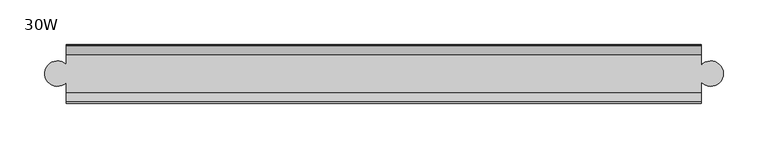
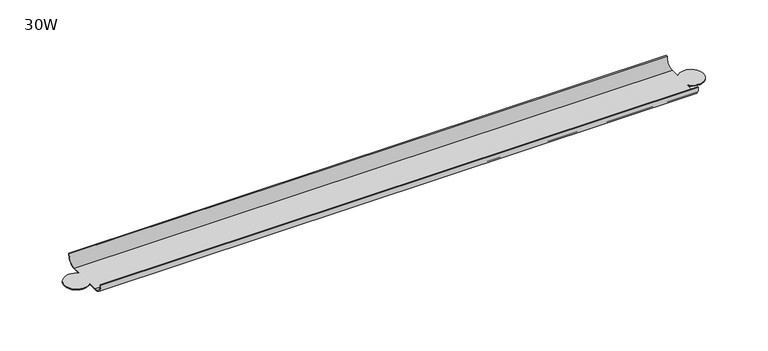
"""IFC4 building model written with IfcOpenShell, lengths in millimetres: furniture geometry, Steelcase - Groupwork - Marker Tray : 30W."""

from ifc_helpers import new_model, si_unit, frame, origin, place, context, project, spatial, polyline, circle_curve, source, transform, mapped, element, save
from ifc_brep_helpers import plane_surface, cylinder_surface, revolved_surface, advanced_brep


def furniture_30w_d64dd9da(model_context):
    return source(origin(), model_context, "Body", "AdvancedBrep", [
        advanced_brep(
        [(734.4429397, 212.2245693, 1687.0172), (23.241, 212.2245693, 1687.0172), (23.241, 202.0295313, 1698.4980698), (734.4429397, 202.0295313, 1698.4980698), (23.241, 200.7958824, 1698.4980698), (734.4429397, 200.7958824, 1698.4980698), (23.241, 212.2245693, 1685.798), (734.4429397, 212.2245693, 1685.798), (23.241, 223.9010128, 1685.798), (23.241, 244.1629734, 1685.798), (23.241, 255.3029693, 1685.798), (734.4429397, 255.3029693, 1685.798), (734.4429397, 243.3482016, 1685.798), (734.4429397, 224.7157845, 1685.798), (23.241, 266.7329688, 1698.4980698), (734.4429397, 266.7329688, 1698.4980698), (23.241, 265.5137686, 1698.4980698), (734.4429397, 265.5137686, 1698.4980698), (23.241, 255.3029693, 1687.0172), (734.4429397, 255.3029693, 1687.0172), (734.4429397, 224.7157845, 1687.0172), (734.4429397, 243.3482016, 1687.0172), (23.241, 244.1629734, 1687.0172), (23.241, 223.9010128, 1687.0172)],
        [
            (0, 1),
            (1, 2, circle_curve(frame((23.241, 212.2245693, 1697.2842432), z_axis=(-1.0, 0.0, 0.0), x_axis=(0.0, -1.0, 0.0)), 10.2670432)),
            (2, 3),
            (3, 0, circle_curve(frame((734.4429397, 212.2245693, 1697.2842432), z_axis=(1.0, 0.0, 0.0), x_axis=(0.0, -1.0, 0.0)), 10.2670432)),
            (2, 4),
            (4, 5),
            (5, 3),
            (4, 6, circle_curve(frame((23.241, 212.2245693, 1697.2903249), z_axis=(1.0, 0.0, 0.0), x_axis=(0.0, -1.0, 0.0)), 11.4923249)),
            (6, 7),
            (7, 5, circle_curve(frame((734.4429397, 212.2245693, 1697.2903249), z_axis=(-1.0, 0.0, 0.0), x_axis=(0.0, -1.0, 0.0)), 11.4923249)),
            (6, 8),
            (8, 9, circle_curve(frame((13.2330891, 234.0319931, 1685.798), z_axis=(0.0, 0.0, -1.0), x_axis=(1.0, 0.0, 0.0)), 14.2406124)),
            (9, 10),
            (10, 11),
            (11, 12),
            (12, 13, circle_curve(frame((745.2134226, 234.0319931, 1685.798), z_axis=(0.0, 0.0, -1.0), x_axis=(1.0, 0.0, 0.0)), 14.2406124)),
            (13, 7),
            (10, 14, circle_curve(frame((23.241, 255.3029693, 1697.2915061), z_axis=(1.0, 0.0, 0.0), x_axis=(0.0, -1.0, 0.0)), 11.4935061)),
            (14, 15),
            (15, 11, circle_curve(frame((734.4429397, 255.3029693, 1697.2915061), z_axis=(-1.0, 0.0, 0.0), x_axis=(0.0, -1.0, 0.0)), 11.4935061)),
            (14, 16),
            (16, 17),
            (17, 15),
            (16, 18, circle_curve(frame((23.241, 255.3029693, 1697.29825), z_axis=(-1.0, 0.0, 0.0), x_axis=(0.0, -1.0, 0.0)), 10.28105)),
            (18, 19),
            (19, 17, circle_curve(frame((734.4429397, 255.3029693, 1697.29825), z_axis=(1.0, 0.0, 0.0), x_axis=(0.0, -1.0, 0.0)), 10.28105)),
            (0, 20),
            (20, 21, circle_curve(frame((745.2134226, 234.0319931, 1687.0172), z_axis=(0.0, 0.0, 1.0), x_axis=(1.0, 0.0, 0.0)), 14.2406124)),
            (21, 19),
            (18, 22),
            (22, 23, circle_curve(frame((13.2330891, 234.0319931, 1687.0172), z_axis=(0.0, 0.0, 1.0), x_axis=(1.0, 0.0, 0.0)), 14.2406124)),
            (23, 1),
            (23, 8),
            (22, 9),
            (21, 12),
            (20, 13),
        ],
        [
            revolved_surface(polyline([(23.241, 201.95752610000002, 1697.2842432), (734.4429397, 201.95752610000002, 1697.2842432)]), (-2.159, 212.2245693, 1697.2842432), (-1.0, 0.0, 0.0)),
            plane_surface(frame((759.841, 202.0295313, 1698.4980698), z_axis=(0.0, 0.0, 1.0), x_axis=(-1.0, 0.0, 0.0))),
            cylinder_surface(frame((-2.159, 212.2245693, 1697.2903249), z_axis=(1.0, 0.0, 0.0), x_axis=(0.0, -1.0, 0.0)), 11.4923249),
            plane_surface(frame((759.841, 212.2245693, 1685.798), z_axis=(0.0, 0.0, -1.0), x_axis=(-1.0, 0.0, 0.0))),
            cylinder_surface(frame((-2.159, 255.3029693, 1697.2915061), z_axis=(1.0, 0.0, 0.0), x_axis=(0.0, -1.0, 0.0)), 11.4935061),
            plane_surface(frame((759.841, 266.7329688, 1698.4980698), z_axis=(0.0, 0.0, 1.0), x_axis=(-1.0, 0.0, 0.0))),
            revolved_surface(polyline([(23.241, 245.0219193, 1697.29825), (734.4429397, 245.0219193, 1697.29825)]), (-2.159, 255.3029693, 1697.29825), (-1.0, 0.0, 0.0)),
            plane_surface(frame((759.841, 255.3029693, 1687.0172), z_axis=(0.0, 0.0, 1.0), x_axis=(-1.0, 0.0, 0.0))),
            plane_surface(frame((23.241, 192.9089405, 1948.5186421), z_axis=(-1.0, 0.0, 0.0), x_axis=(0.0, 0.0, -1.0))),
            cylinder_surface(frame((13.2330891, 234.0319931, 0.0), z_axis=(0.0, 0.0, -1.0), x_axis=(1.0, 0.0, 0.0)), 14.2406124),
            plane_surface(frame((23.241, 244.1629734, 1948.5186421), z_axis=(-1.0, 0.0, 0.0), x_axis=(0.0, 0.0, -1.0))),
            plane_surface(frame((734.4429397, 277.7490046, 1948.5186421), z_axis=(1.0, 0.0, 0.0), x_axis=(0.0, 0.0, -1.0))),
            cylinder_surface(frame((745.2134226, 234.0319931, 0.0), z_axis=(0.0, 0.0, -1.0), x_axis=(1.0, 0.0, 0.0)), 14.2406124),
            plane_surface(frame((734.4429397, 224.7157845, 1948.5186421), z_axis=(1.0, 0.0, 0.0), x_axis=(0.0, 0.0, -1.0))),
        ],
        [
            (0, [[1, 2, 3, 4]]),
            (1, [[-3, 5, 6, 7]]),
            (2, [[-6, 8, 9, 10]]),
            (3, [[-9, 11, 12, 13, 14, 15, 16, 17]]),
            (4, [[-14, 18, 19, 20]]),
            (5, [[-19, 21, 22, 23]]),
            (6, [[-22, 24, 25, 26]]),
            (7, [[-1, 27, 28, 29, -25, 30, 31, 32]]),
            (8, [[33, -11, -8, -5, -2, -32]]),
            (9, [[-33, -31, 34, -12]]),
            (10, [[-34, -30, -24, -21, -18, -13]]),
            (11, [[35, -15, -20, -23, -26, -29]]),
            (12, [[-35, -28, 36, -16]]),
            (13, [[-36, -27, -4, -7, -10, -17]]),
        ],
    ),
    ])


if __name__ == "__main__":
    model = new_model("IFC4")
    model_context = context("Model", 3, world=origin())
    ifc_project = project(units=[si_unit("LENGTHUNIT", "METRE", prefix="MILLI")], contexts=[model_context])
    site = spatial("IfcSite", under=ifc_project)
    building = spatial("IfcBuilding", under=site)
    placement = place(None, origin())
    furniture_30w_shape = furniture_30w_d64dd9da(model_context)
    element("IfcFurniture", 1, ObjectType="Steelcase - Groupwork - Marker Tray : 30W", at=placement, inside=building, context=model_context, shape_type="MappedRepresentation", body=[
        mapped(furniture_30w_shape, transform((0.0, 0.0, 0.0), x_axis=(1.0, 0.0, 0.0), y_axis=(0.0, 1.0, 0.0), z_axis=(0.0, 0.0, 1.0))),
    ])
    save(model, "model.ifc")
